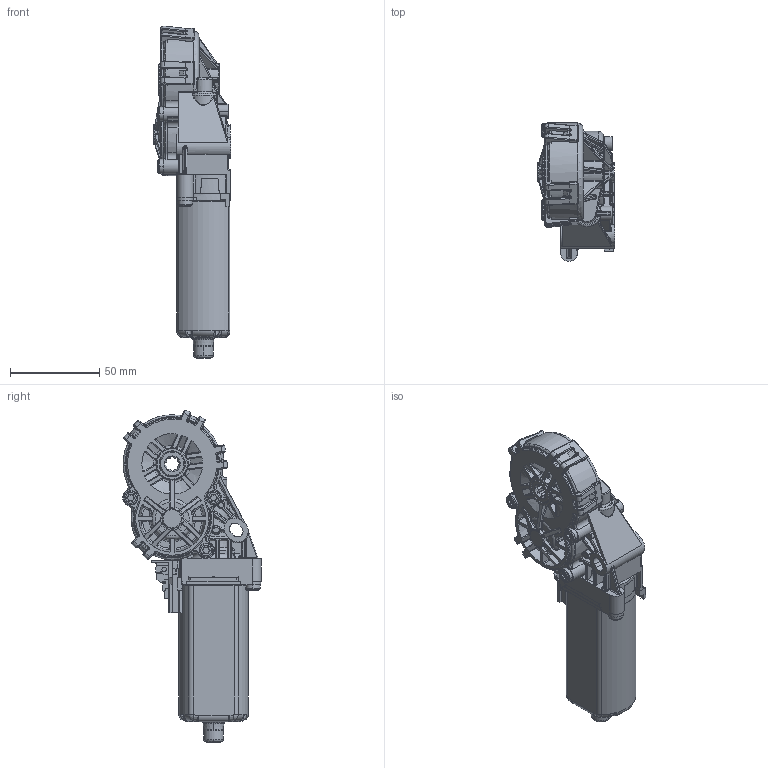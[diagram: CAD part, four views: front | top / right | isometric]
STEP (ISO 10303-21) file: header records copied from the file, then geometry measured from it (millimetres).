
FILE_DESCRIPTION((''),'2;1');
FILE_NAME('PRT0001','2014-08-13T',('neh1cob'),(''),'PRO/ENGINEER BY PARAMETRIC TECHNOLOGY CORPORATION, 2011490','PRO/ENGINEER BY PARAMETRIC TECHNOLOGY CORPORATION, 2011490','');
FILE_SCHEMA(('AUTOMOTIVE_DESIGN_CC2 { 1 2 10303 214 -1 1 5 2 }'));
Length unit declared in the file: millimetre
Products named in the file (1): PRT0001
Bounding box: 43.25 x 77.54 x 185.84 mm (x, y, z)
Volume: 214046.8 mm3; surface area: 44007.6 mm2
Topology: 1 solids, 15 shells, 2647 faces, 7208 edges, 4449 vertices
Faces by surface type: cylinder 962, plane 626, bspline 453, torus 354, sphere 144, cone 101, revolution 7
Entity records: 134989 total; most frequent: CARTESIAN_POINT 53342, ORIENTED_EDGE 14138, DIRECTION 12463, EDGE_CURVE 7069, AXIS2_PLACEMENT_3D 5087, VERTEX_POINT 4449, CIRCLE 2900, EDGE_LOOP 2690
